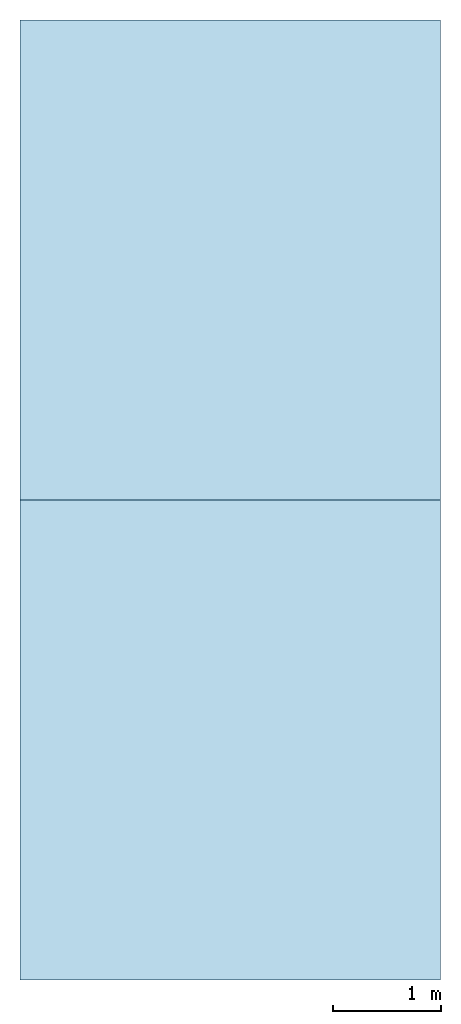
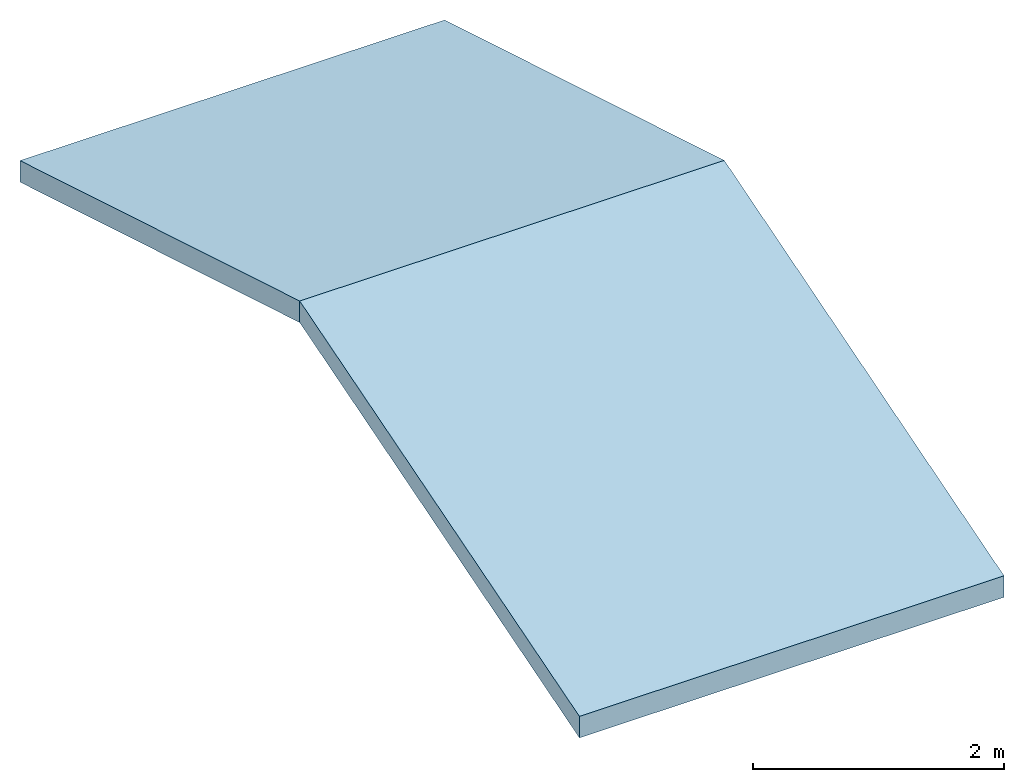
# One storey: 2 slabs, 1 element without a shape of its own.
"""IFC2X3 building model written with IfcOpenShell, lengths in metres."""

from ifc_helpers import new_model, entity, si_unit, converted_unit, derived_unit, direction, frame, frame_2d, origin, place, context, subcontext, project, spatial, rectangle, extrude, type_object, element, aggregate, save


model = new_model("IFC2X3")

# Units and contexts
model_context = context("Model", 3, precision=1e-05, world=origin(), true_north=direction((6.12303176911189e-17, 1.0)))
body_context = subcontext(model_context, "Body", "Model", "MODEL_VIEW")
ifc_project = project(units=[si_unit("LENGTHUNIT", "METRE"), si_unit("AREAUNIT", "SQUARE_METRE"), si_unit("VOLUMEUNIT", "CUBIC_METRE"), converted_unit("PLANEANGLEUNIT", "DEGREE", entity("IfcRatioMeasure", 0.0174532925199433), si_unit("PLANEANGLEUNIT", "RADIAN"), dimensions=[0, 0, 0, 0, 0, 0, 0]), si_unit("MASSUNIT", "GRAM", prefix="KILO"), derived_unit("MASSDENSITYUNIT", [(si_unit("MASSUNIT", "GRAM", prefix="KILO"), 1), (si_unit("LENGTHUNIT", "METRE"), -3)]), derived_unit("MOMENTOFINERTIAUNIT", [(si_unit("LENGTHUNIT", "METRE"), 4)]), si_unit("TIMEUNIT", "SECOND"), si_unit("FREQUENCYUNIT", "HERTZ"), si_unit("THERMODYNAMICTEMPERATUREUNIT", "DEGREE_CELSIUS"), derived_unit("THERMALTRANSMITTANCEUNIT", [(si_unit("MASSUNIT", "GRAM", prefix="KILO"), 1), (si_unit("THERMODYNAMICTEMPERATUREUNIT", "KELVIN"), -1), (si_unit("TIMEUNIT", "SECOND"), -3)]), derived_unit("VOLUMETRICFLOWRATEUNIT", [(si_unit("LENGTHUNIT", "METRE"), 3), (si_unit("TIMEUNIT", "SECOND"), -1)]), si_unit("ELECTRICCURRENTUNIT", "AMPERE"), si_unit("ELECTRICVOLTAGEUNIT", "VOLT"), si_unit("POWERUNIT", "WATT"), si_unit("FORCEUNIT", "NEWTON", prefix="KILO"), si_unit("ILLUMINANCEUNIT", "LUX"), si_unit("LUMINOUSFLUXUNIT", "LUMEN"), si_unit("LUMINOUSINTENSITYUNIT", "CANDELA"), derived_unit("USERDEFINED", [(si_unit("MASSUNIT", "GRAM", prefix="KILO"), -1), (si_unit("LENGTHUNIT", "METRE"), -2), (si_unit("TIMEUNIT", "SECOND"), 3), (si_unit("LUMINOUSFLUXUNIT", "LUMEN"), 1)]), derived_unit("LINEARVELOCITYUNIT", [(si_unit("LENGTHUNIT", "METRE"), 1), (si_unit("TIMEUNIT", "SECOND"), -1)]), si_unit("PRESSUREUNIT", "PASCAL"), derived_unit("USERDEFINED", [(si_unit("LENGTHUNIT", "METRE"), -2), (si_unit("MASSUNIT", "GRAM", prefix="KILO"), 1), (si_unit("TIMEUNIT", "SECOND"), -2)]), derived_unit("LINEARFORCEUNIT", [(si_unit("MASSUNIT", "GRAM", prefix="KILO"), 1), (si_unit("LENGTHUNIT", "METRE"), 1), (si_unit("TIMEUNIT", "SECOND"), -2), (si_unit("LENGTHUNIT", "METRE"), -1)]), derived_unit("PLANARFORCEUNIT", [(si_unit("MASSUNIT", "GRAM", prefix="KILO"), 1), (si_unit("LENGTHUNIT", "METRE"), 1), (si_unit("TIMEUNIT", "SECOND"), -2), (si_unit("LENGTHUNIT", "METRE"), -2)])], contexts=[model_context])

# Site, building, storey
site_placement = place(None, origin())
site = spatial("IfcSite", under=ifc_project, at=site_placement, Name="Surface", CompositionType="ELEMENT")
building_placement = place(site_placement, origin())
building = spatial("IfcBuilding", under=site, at=building_placement, CompositionType="ELEMENT")
storey_placement = place(building_placement, frame((0.0, 0.0, 1.7)))
storey = spatial("IfcBuildingStorey", under=building, at=storey_placement, Name="ARARSE GARAGE", CompositionType="ELEMENT", Elevation=1.7)

# Roof, slabs
roof_placement = place(storey_placement, frame((-21.9482926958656, 2.99737977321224, -0.0899999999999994)))
roof = element("IfcRoof", 1, at=roof_placement, inside=storey, Name="Toit de base:Toit - 200 mm", ObjectType="Toit de base:Toit - 200 mm", ShapeType="NOTDEFINED")
slab_type_1 = type_object("IfcSlabType", Name="Toit de base:Toit - 200 mm", PredefinedType="ROOF")
slab_1_placement = place(roof_placement, origin())
slab_1 = element("IfcSlab", 2, at=slab_1_placement, type_object=slab_type_1, Name="Toit de base:Toit - 200 mm", ObjectType="Toit de base:Toit - 200 mm", PredefinedType="NOTDEFINED", context=body_context, shape_type="SweptSolid", body=[
    extrude(rectangle(XDim=3.9, YDim=4.6459363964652, at=frame_2d((-1.11022302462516e-15, 2.88657986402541e-15), x_axis=(1.0, 0.0))), frame((1.95, 6.67500000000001, 0.667500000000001), z_axis=(0.0, 0.287347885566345, 0.957826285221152), x_axis=(1.0, 0.0, 0.0)), (0.0, -0.287347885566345, 0.957826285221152), 0.208806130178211),
])
slab_type_2 = type_object("IfcSlabType", Name="Toit de base:Toit - 200 mm", PredefinedType="ROOF")
slab_2_placement = place(roof_placement, origin())
slab_2 = element("IfcSlab", 3, at=slab_2_placement, type_object=slab_type_2, Name="Toit de base:Toit - 200 mm", ObjectType="Toit de base:Toit - 200 mm", PredefinedType="NOTDEFINED", context=body_context, shape_type="SweptSolid", body=[
    extrude(rectangle(XDim=4.64593639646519, YDim=3.9, at=frame_2d((-1.11022302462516e-15, -2.22044604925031e-15), x_axis=(0.0, 1.0))), frame((1.95, 2.22500000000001, 0.6675), z_axis=(0.0, -0.287347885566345, 0.957826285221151), x_axis=(1.0, 0.0, 0.0)), (0.0, 0.287347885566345, 0.957826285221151), 0.208806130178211),
])
aggregate(roof, [slab_1, slab_2])

save(model, "model.ifc")
